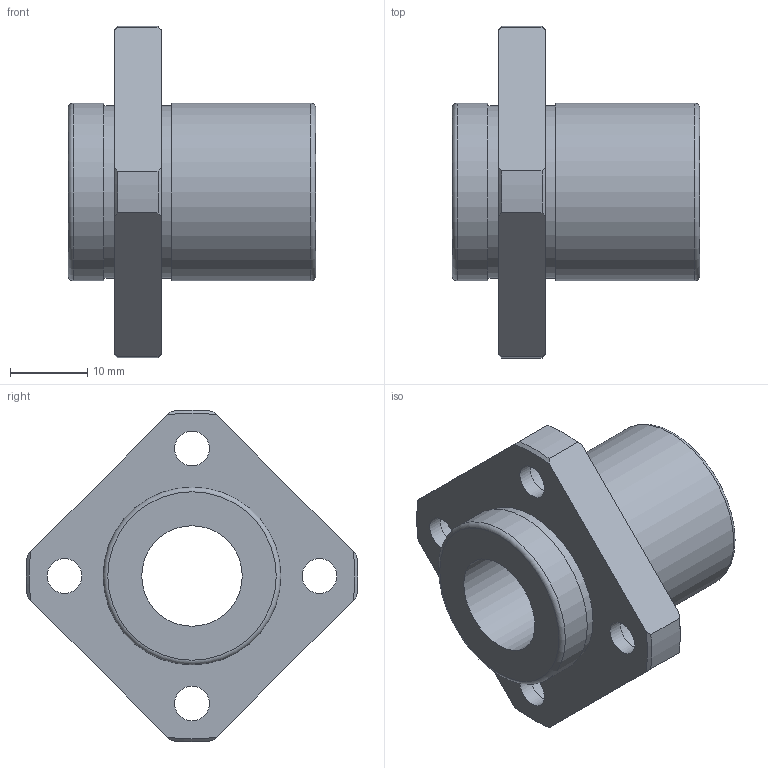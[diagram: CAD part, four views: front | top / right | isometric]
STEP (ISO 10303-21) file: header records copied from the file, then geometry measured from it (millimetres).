
FILE_DESCRIPTION(('STEP AP203'),'1');
FILE_NAME('//192.168.1.1/share/s-4 技術開発/s-4-4_CAD/s-4-4-3_見直し済み/002 修正済み/NFIS-V/NFIS-V_TOP/NFIS-13VUU.step','2022-03-08T02:23:33',(' '),(' '),'Spatial InterOp 3D',' ',' ');
FILE_SCHEMA(('CONFIG_CONTROL_DESIGN'));
Length unit declared in the file: millimetre
Products named in the file (1): 1
Bounding box: 32 x 42.96 x 42.96 mm (x, y, z)
Volume: 12399.3 mm3; surface area: 6351.4 mm2
Topology: 1 solids, 1 shells, 41 faces, 99 edges, 68 vertices
Faces by surface type: cylinder 17, plane 14, cone 8, torus 2
Full cylindrical faces by diameter (mm): 4.5 x4, 7.5 x4, 13 x1, 22.3 x2, 23 x2
Entity records: 1158 total; most frequent: CARTESIAN_POINT 226, DIRECTION 188, ORIENTED_EDGE 152, AXIS2_PLACEMENT_3D 86, EDGE_CURVE 76, EDGE_LOOP 74, VERTEX_POINT 60, FACE_OUTER_BOUND 56
